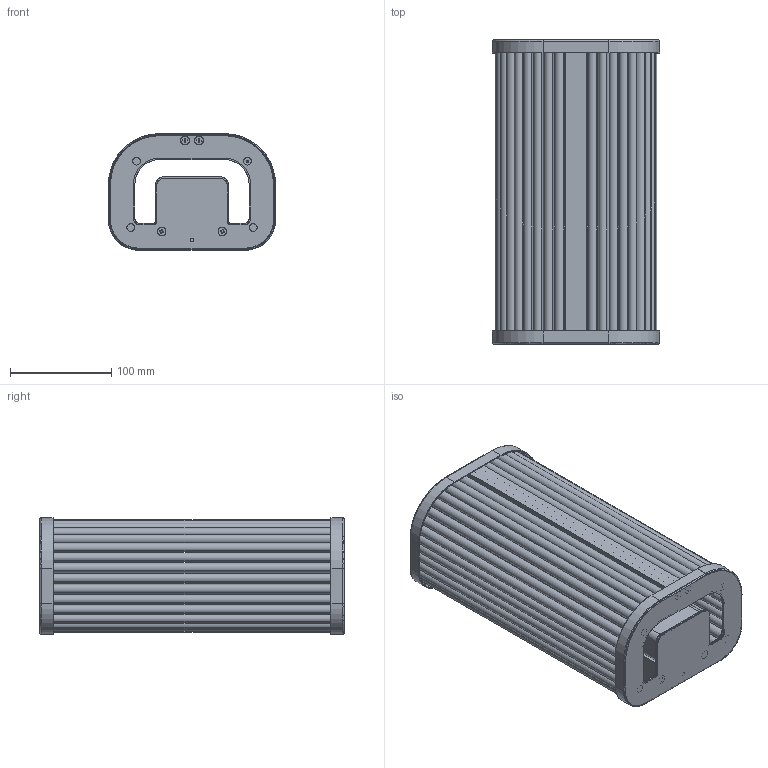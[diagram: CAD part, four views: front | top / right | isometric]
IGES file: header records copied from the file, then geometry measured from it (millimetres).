
Start section: SolidWorks IGES file using analytic representation for surfaces
Global section: file name: \\srvficheros\grupos\DISENYO\DESARROLLO DE PRODUCTO\_3D_WEB\DIVA-A3990072\DIVA-A3990072.IGS; native system: SolidWorks 2025; preprocessor: SolidWorks 2025; author: d.pons; date: 260113.112014; units: millimetre
Bounding box: 165 x 300.5 x 115 mm (x, y, z)
Surface area: 747627.3 mm2 (no closed solid volume)
Topology: 0 solids, 0 shells, 1489 faces, 18512 edges, 18480 vertices
Faces by surface type: bspline 785, revolution 704
